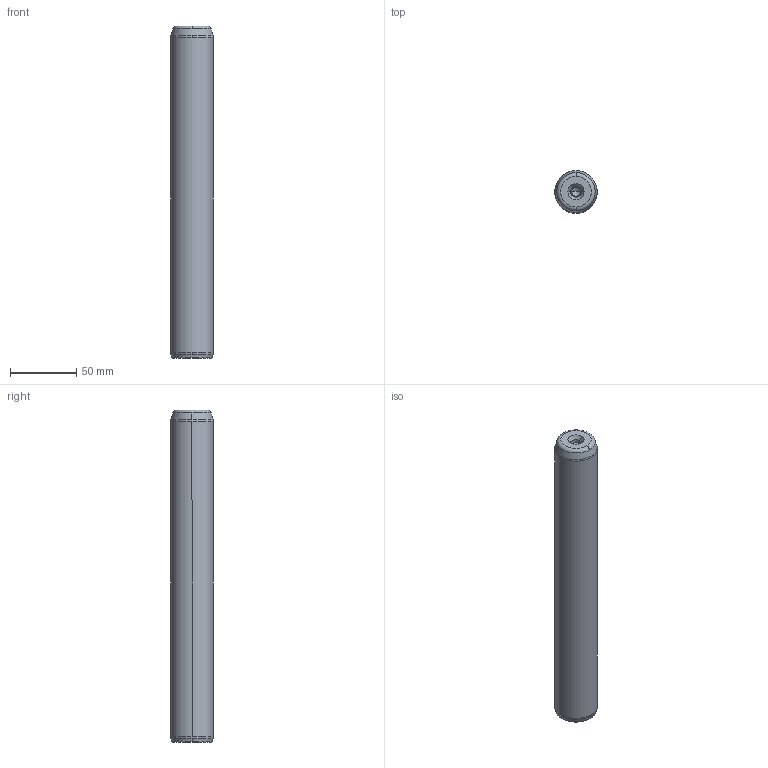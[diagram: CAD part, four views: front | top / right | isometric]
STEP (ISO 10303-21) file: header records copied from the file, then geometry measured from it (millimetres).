
FILE_DESCRIPTION((''),'2;1');
FILE_NAME('P10_032_250.stp','2008-12-23T15:04:51',(''),(''),'Mechanical Desktop 2009','Mechanical Desktop 2009',', , ');
FILE_SCHEMA(('CONFIG_CONTROL_DESIGN'));
Length unit declared in the file: millimetre
Products named in the file (5): Product; ProductAA; blmdl1; ProductA; blmdl1A
Assembly tree (2 placements, depth 3):
  Product
    ProductAA
      blmdl1
  ProductA
  blmdl1A
Bounding box: 32 x 32 x 250 mm (x, y, z)
Volume: 198837.3 mm3; surface area: 26888.6 mm2
Topology: 1 solids, 1 shells, 26 faces, 66 edges, 41 vertices
Faces by surface type: cone 10, torus 8, cylinder 6, plane 2
Entity records: 1012 total; most frequent: DIRECTION 170, CARTESIAN_POINT 134, ORIENTED_EDGE 128, AXIS2_PLACEMENT_3D 77, EDGE_CURVE 64, CIRCLE 48, VERTEX_POINT 41, EDGE_LOOP 27
